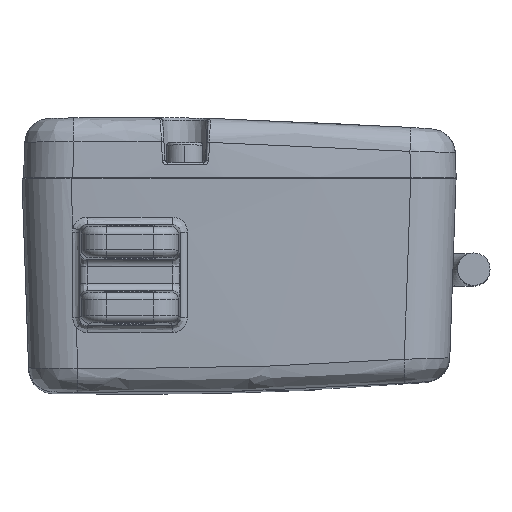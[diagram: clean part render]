
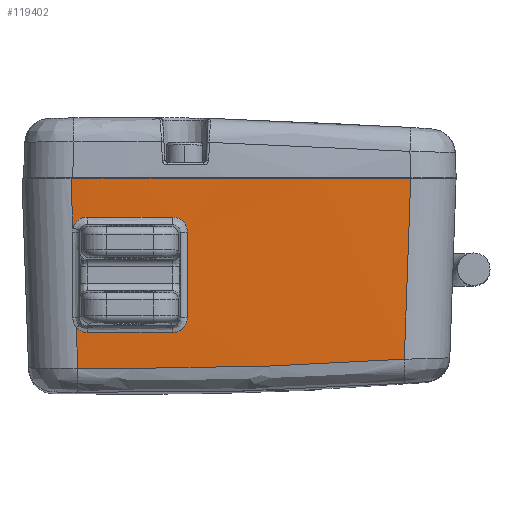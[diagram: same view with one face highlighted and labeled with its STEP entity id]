
A CAD part, top view. The second image highlights one B-rep face of the part: STEP entity #119402.
In plain terms, the highlighted conical face has half-angle 2 degrees and reference radius 599.695 mm.
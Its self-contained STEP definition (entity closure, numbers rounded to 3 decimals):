
#8740=CARTESIAN_POINT('',(0.,19.3,-578.));
#8741=DIRECTION('',(0.,-1.,0.));
#8742=DIRECTION('',(0.094,0.,0.996));
#8743=AXIS2_PLACEMENT_3D('',#8740,#8741,#8742);
#8745=CARTESIAN_POINT('',(0.,19.3,-578.));
#8746=DIRECTION('',(0.,-1.,0.));
#8747=DIRECTION('',(0.,0.,1.));
#8748=AXIS2_PLACEMENT_3D('',#8745,#8746,#8747);
#36343=CARTESIAN_POINT('',(-11.76,19.3,
22.243));
#36349=CARTESIAN_POINT('',(54.874,-16.81,
18.579));
#36350=CARTESIAN_POINT('',(48.795,-17.224,
19.124));
#36351=CARTESIAN_POINT('',(36.619,-17.914,
20.032));
#36352=CARTESIAN_POINT('',(18.314,-18.536,
20.85));
#36353=CARTESIAN_POINT('',(6.105,-18.675,
21.032));
#36354=CARTESIAN_POINT('',(0.,-18.675,
21.032));
#36356=CARTESIAN_POINT('',(0.,-18.675,
21.032));
#36357=CARTESIAN_POINT('',(-3.472,-18.675,
21.032));
#36358=CARTESIAN_POINT('',(-6.945,-18.653,
21.003));
#36359=CARTESIAN_POINT('',(-10.416,-18.607,
20.944));
#36361=CARTESIAN_POINT('',(-10.416,-18.607,
20.944));
#36362=CARTESIAN_POINT('',(-10.448,-17.713,
20.975));
#36363=CARTESIAN_POINT('',(-10.512,-15.926,
21.036));
#36364=CARTESIAN_POINT('',(-10.604,-13.245,
21.128));
#36365=CARTESIAN_POINT('',(-10.668,-11.457,
21.189));
#36366=CARTESIAN_POINT('',(-10.7,-10.563,
21.22));
#36368=CARTESIAN_POINT('',(-11.41,9.368,
21.903));
#36369=CARTESIAN_POINT('',(-11.449,10.472,
21.941));
#36370=CARTESIAN_POINT('',(-11.528,12.679,
22.016));
#36371=CARTESIAN_POINT('',(-11.642,15.99,
22.13));
#36372=CARTESIAN_POINT('',(-11.72,18.197,
22.205));
#36373=CARTESIAN_POINT('',(-11.76,19.3,
22.243));
#36375=CARTESIAN_POINT('',(56.154,19.3,19.726));
#36376=CARTESIAN_POINT('',(56.009,15.288,19.599));
#36377=CARTESIAN_POINT('',(55.721,7.265,19.345));
#36378=CARTESIAN_POINT('',(55.307,-4.772,
18.961));
#36379=CARTESIAN_POINT('',(55.019,-12.797,
18.706));
#36380=CARTESIAN_POINT('',(54.874,-16.81,
18.579));
#36605=CARTESIAN_POINT('',(-8.533,-11.498,
21.222));
#36606=CARTESIAN_POINT('',(-8.821,-11.492,
21.218));
#36607=CARTESIAN_POINT('',(-9.364,-11.416,
21.213));
#36608=CARTESIAN_POINT('',(-10.035,-11.127,
21.212));
#36609=CARTESIAN_POINT('',(-10.484,-10.775,
21.216));
#36610=CARTESIAN_POINT('',(-10.7,-10.563,
21.22));
#36784=CARTESIAN_POINT('',(-11.41,9.368,
21.903));
#36785=CARTESIAN_POINT('',(-11.321,9.661,
21.915));
#36786=CARTESIAN_POINT('',(-11.093,10.189,
21.938));
#36787=CARTESIAN_POINT('',(-10.62,10.769,
21.967));
#36788=CARTESIAN_POINT('',(-9.962,11.264,
21.995));
#36789=CARTESIAN_POINT('',(-9.113,11.561,
22.019));
#36790=CARTESIAN_POINT('',(-8.706,11.604,
22.026));
#36791=CARTESIAN_POINT('',(-8.519,11.588,
22.029));
#36802=CARTESIAN_POINT('',(0.,11.588,-578.));
#36803=DIRECTION('',(0.,1.,0.));
#36804=DIRECTION('',(-0.014,0.,1.));
#36805=AXIS2_PLACEMENT_3D('',#36802,#36803,#36804);
#36807=CARTESIAN_POINT('',(0.,11.588,-578.));
#36808=DIRECTION('',(0.,1.,0.));
#36809=DIRECTION('',(0.,0.,1.));
#36810=AXIS2_PLACEMENT_3D('',#36807,#36808,#36809);
#36938=CARTESIAN_POINT('',(8.518,11.588,22.029));
#36939=CARTESIAN_POINT('',(8.834,11.588,22.024));
#36940=CARTESIAN_POINT('',(9.438,11.495,22.012));
#36941=CARTESIAN_POINT('',(10.309,11.055,21.982));
#36942=CARTESIAN_POINT('',(10.981,10.38,21.946));
#36943=CARTESIAN_POINT('',(11.416,9.515,21.908));
#36944=CARTESIAN_POINT('',(11.509,8.91,21.885));
#36945=CARTESIAN_POINT('',(11.51,8.592,21.874));
#36952=CARTESIAN_POINT('',(11.51,8.592,21.874));
#36953=CARTESIAN_POINT('',(11.514,2.895,21.675));
#36954=CARTESIAN_POINT('',(11.517,-2.801,
21.476));
#36955=CARTESIAN_POINT('',(11.521,-8.498,
21.277));
#36962=CARTESIAN_POINT('',(11.521,-8.498,
21.277));
#36963=CARTESIAN_POINT('',(11.521,-8.811,
21.266));
#36964=CARTESIAN_POINT('',(11.43,-9.411,
21.247));
#36965=CARTESIAN_POINT('',(10.995,-10.287,
21.224));
#36966=CARTESIAN_POINT('',(10.324,-10.963,
21.213));
#36967=CARTESIAN_POINT('',(9.451,-11.404,
21.212));
#36968=CARTESIAN_POINT('',(8.849,-11.498,
21.218));
#36969=CARTESIAN_POINT('',(8.534,-11.498,
21.222));
#36993=CARTESIAN_POINT('',(0.,-11.497,-578.));
#36994=DIRECTION('',(0.,-1.,0.));
#36995=DIRECTION('',(0.014,0.,1.));
#36996=AXIS2_PLACEMENT_3D('',#36993,#36994,#36995);
#36998=CARTESIAN_POINT('',(0.,-11.497,-578.));
#36999=DIRECTION('',(0.,-1.,0.));
#37000=DIRECTION('',(0.,0.,1.));
#37001=AXIS2_PLACEMENT_3D('',#36998,#36999,#37000);
#48690=VERTEX_POINT('',#36343);
#48695=VERTEX_POINT('',#36349);
#48696=VERTEX_POINT('',#36354);
#48697=VERTEX_POINT('',#36359);
#48698=VERTEX_POINT('',#36366);
#48699=VERTEX_POINT('',#36938);
#48700=VERTEX_POINT('',#36945);
#48701=CARTESIAN_POINT('',(0.,11.588,22.089));
#48702=VERTEX_POINT('',#48701);
#48703=VERTEX_POINT('',#36368);
#48704=CARTESIAN_POINT('',(56.154,19.3,19.726));
#48705=CARTESIAN_POINT('',(0.,19.3,22.358));
#48706=VERTEX_POINT('',#48704);
#48707=VERTEX_POINT('',#48705);
#48727=VERTEX_POINT('',#36605);
#48770=VERTEX_POINT('',#36791);
#48796=VERTEX_POINT('',#36955);
#48797=VERTEX_POINT('',#36969);
#48798=CARTESIAN_POINT('',(0.,-11.497,21.283));
#48799=VERTEX_POINT('',#48798);
#119367=CARTESIAN_POINT('',(0.,0.313,-578.));
#119368=DIRECTION('',(0.,1.,0.));
#119369=DIRECTION('',(0.,0.,1.));
#119370=AXIS2_PLACEMENT_3D('',#119367,#119368,#119369);
#119371=CONICAL_SURFACE('',#119370,599.695,2.);
#119373=ORIENTED_EDGE('',*,*,#119372,.T.);
#119375=ORIENTED_EDGE('',*,*,#119374,.T.);
#119376=ORIENTED_EDGE('',*,*,#119359,.T.);
#119378=ORIENTED_EDGE('',*,*,#119377,.F.);
#119380=ORIENTED_EDGE('',*,*,#119379,.F.);
#119382=ORIENTED_EDGE('',*,*,#119381,.F.);
#119384=ORIENTED_EDGE('',*,*,#119383,.F.);
#119386=ORIENTED_EDGE('',*,*,#119385,.F.);
#119388=ORIENTED_EDGE('',*,*,#119387,.F.);
#119390=ORIENTED_EDGE('',*,*,#119389,.F.);
#119392=ORIENTED_EDGE('',*,*,#119391,.F.);
#119394=ORIENTED_EDGE('',*,*,#119393,.F.);
#119395=ORIENTED_EDGE('',*,*,#119351,.T.);
#119396=ORIENTED_EDGE('',*,*,#67575,.F.);
#119397=ORIENTED_EDGE('',*,*,#67573,.F.);
#119399=ORIENTED_EDGE('',*,*,#119398,.T.);
#119400=EDGE_LOOP('',(#119373,#119375,#119376,#119378,#119380,#119382,#119384,
#119386,#119388,#119390,#119392,#119394,#119395,#119396,#119397,#119399));
#119401=FACE_OUTER_BOUND('',#119400,.F.);
#119402=ADVANCED_FACE('',(#119401),#119371,.T.);
#8744=CIRCLE('',#8743,600.358);
#8749=CIRCLE('',#8748,600.358);
#36355=B_SPLINE_CURVE_WITH_KNOTS('',3,(#36349,#36350,#36351,#36352,#36353,
#36354),.UNSPECIFIED.,.F.,.F.,(4,1,1,4),(0.,0.333,
0.667,1.),.UNSPECIFIED.);
#36360=B_SPLINE_CURVE_WITH_KNOTS('',3,(#36356,#36357,#36358,#36359),
.UNSPECIFIED.,.F.,.F.,(4,4),(0.,1.),.UNSPECIFIED.);
#36367=B_SPLINE_CURVE_WITH_KNOTS('',3,(#36361,#36362,#36363,#36364,#36365,
#36366),.UNSPECIFIED.,.F.,.F.,(4,1,1,4),(0.,0.333,
0.667,1.),.UNSPECIFIED.);
#36374=B_SPLINE_CURVE_WITH_KNOTS('',3,(#36368,#36369,#36370,#36371,#36372,
#36373),.UNSPECIFIED.,.F.,.F.,(4,1,1,4),(0.,0.333,
0.667,1.),.UNSPECIFIED.);
#36381=B_SPLINE_CURVE_WITH_KNOTS('',3,(#36375,#36376,#36377,#36378,#36379,
#36380),.UNSPECIFIED.,.F.,.F.,(4,1,1,4),(0.,0.333,
0.667,1.),.UNSPECIFIED.);
#36611=B_SPLINE_CURVE_WITH_KNOTS('',3,(#36605,#36606,#36607,#36608,#36609,
#36610),.UNSPECIFIED.,.F.,.F.,(4,1,1,4),(0.,0.333,
0.667,1.),.UNSPECIFIED.);
#36792=B_SPLINE_CURVE_WITH_KNOTS('',3,(#36784,#36785,#36786,#36787,#36788,
#36789,#36790,#36791),.UNSPECIFIED.,.F.,.F.,(4,1,1,1,1,4),(0.,0.2,0.4,
0.6,0.8,1.),.UNSPECIFIED.);
#36806=CIRCLE('',#36805,600.089);
#36811=CIRCLE('',#36810,600.089);
#36946=B_SPLINE_CURVE_WITH_KNOTS('',3,(#36938,#36939,#36940,#36941,#36942,
#36943,#36944,#36945),.UNSPECIFIED.,.F.,.F.,(4,1,1,1,1,4),(0.,0.2,0.4,
0.6,0.8,1.),.UNSPECIFIED.);
#36956=B_SPLINE_CURVE_WITH_KNOTS('',3,(#36952,#36953,#36954,#36955),
.UNSPECIFIED.,.F.,.F.,(4,4),(0.,1.),.UNSPECIFIED.);
#36970=B_SPLINE_CURVE_WITH_KNOTS('',3,(#36962,#36963,#36964,#36965,#36966,
#36967,#36968,#36969),.UNSPECIFIED.,.F.,.F.,(4,1,1,1,1,4),(0.,0.2,0.4,
0.6,0.8,1.),.UNSPECIFIED.);
#36997=CIRCLE('',#36996,599.283);
#37002=CIRCLE('',#37001,599.283);
#67573=EDGE_CURVE('',#48706,#48707,#8744,.T.);
#67575=EDGE_CURVE('',#48707,#48690,#8749,.T.);
#119351=EDGE_CURVE('',#48703,#48690,#36374,.T.);
#119359=EDGE_CURVE('',#48697,#48698,#36367,.T.);
#119372=EDGE_CURVE('',#48695,#48696,#36355,.T.);
#119374=EDGE_CURVE('',#48696,#48697,#36360,.T.);
#119377=EDGE_CURVE('',#48727,#48698,#36611,.T.);
#119379=EDGE_CURVE('',#48799,#48727,#37002,.T.);
#119381=EDGE_CURVE('',#48797,#48799,#36997,.T.);
#119383=EDGE_CURVE('',#48796,#48797,#36970,.T.);
#119385=EDGE_CURVE('',#48700,#48796,#36956,.T.);
#119387=EDGE_CURVE('',#48699,#48700,#36946,.T.);
#119389=EDGE_CURVE('',#48702,#48699,#36811,.T.);
#119391=EDGE_CURVE('',#48770,#48702,#36806,.T.);
#119393=EDGE_CURVE('',#48703,#48770,#36792,.T.);
#119398=EDGE_CURVE('',#48706,#48695,#36381,.T.);
